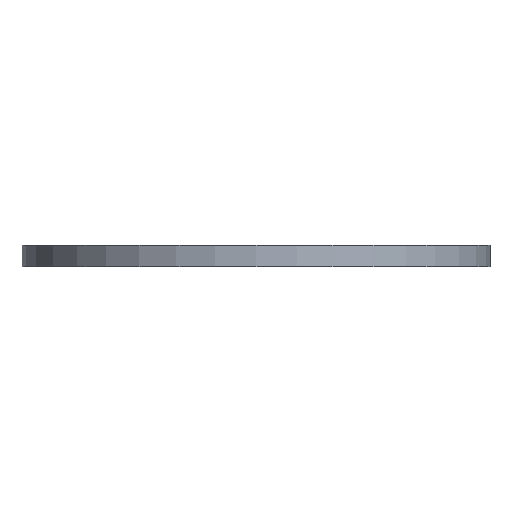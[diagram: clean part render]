
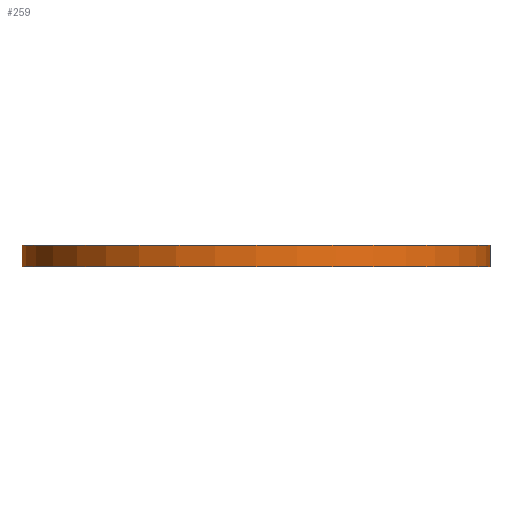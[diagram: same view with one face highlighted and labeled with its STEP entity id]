
A CAD part, front view. The second image highlights one B-rep face of the part: STEP entity #259.
In plain terms, the highlighted cylindrical face has radius 140 mm (diameter 280 mm), a partial arc.
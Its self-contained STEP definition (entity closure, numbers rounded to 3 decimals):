
#14 = DIRECTION ( 'NONE',  ( 0., 0., 1. ) ) ;
#30 = EDGE_CURVE ( 'NONE', #240, #718, #619, .T. ) ;
#32 = CARTESIAN_POINT ( 'NONE',  ( 140., 0., 13. ) ) ;
#64 = VECTOR ( 'NONE', #625, 1000. ) ;
#70 = DIRECTION ( 'NONE',  ( 0., 0., -1. ) ) ;
#81 = DIRECTION ( 'NONE',  ( 1., 0., 0. ) ) ;
#91 = CARTESIAN_POINT ( 'NONE',  ( 140., 0., 0. ) ) ;
#120 = DIRECTION ( 'NONE',  ( -1., 0., 0. ) ) ;
#164 = VERTEX_POINT ( 'NONE', #91 ) ;
#199 = CARTESIAN_POINT ( 'NONE',  ( 0., 0., 13. ) ) ;
#216 = EDGE_LOOP ( 'NONE', ( #685, #788, #676, #414 ) ) ;
#240 = VERTEX_POINT ( 'NONE', #630 ) ;
#247 = DIRECTION ( 'NONE',  ( 1., 0., 0. ) ) ;
#251 = EDGE_CURVE ( 'NONE', #776, #164, #284, .T. ) ;
#259 = ADVANCED_FACE ( 'NONE', ( #278 ), #565, .T. ) ;
#278 = FACE_OUTER_BOUND ( 'NONE', #216, .T. ) ;
#284 = CIRCLE ( 'NONE', #771, 140. ) ;
#364 = CARTESIAN_POINT ( 'NONE',  ( 0., 0., 13. ) ) ;
#367 = EDGE_CURVE ( 'NONE', #718, #164, #428, .T. ) ;
#373 = CARTESIAN_POINT ( 'NONE',  ( -140., 0., 13. ) ) ;
#414 = ORIENTED_EDGE ( 'NONE', *, *, #251, .T. ) ;
#428 = LINE ( 'NONE', #545, #692 ) ;
#429 = CARTESIAN_POINT ( 'NONE',  ( -140., 0., 0. ) ) ;
#474 = DIRECTION ( 'NONE',  ( 0., 0., -1. ) ) ;
#538 = DIRECTION ( 'NONE',  ( 0., 0., 1. ) ) ;
#545 = CARTESIAN_POINT ( 'NONE',  ( 140., 0., 13. ) ) ;
#565 = CYLINDRICAL_SURFACE ( 'NONE', #578, 140. ) ;
#566 = AXIS2_PLACEMENT_3D ( 'NONE', #364, #538, #247 ) ;
#578 = AXIS2_PLACEMENT_3D ( 'NONE', #199, #70, #120 ) ;
#591 = LINE ( 'NONE', #373, #64 ) ;
#619 = CIRCLE ( 'NONE', #566, 140. ) ;
#625 = DIRECTION ( 'NONE',  ( 0., 0., -1. ) ) ;
#630 = CARTESIAN_POINT ( 'NONE',  ( -140., 0., 13. ) ) ;
#645 = CARTESIAN_POINT ( 'NONE',  ( 0., 0., 0. ) ) ;
#676 = ORIENTED_EDGE ( 'NONE', *, *, #797, .T. ) ;
#685 = ORIENTED_EDGE ( 'NONE', *, *, #367, .F. ) ;
#692 = VECTOR ( 'NONE', #474, 1000. ) ;
#718 = VERTEX_POINT ( 'NONE', #32 ) ;
#771 = AXIS2_PLACEMENT_3D ( 'NONE', #645, #14, #81 ) ;
#776 = VERTEX_POINT ( 'NONE', #429 ) ;
#788 = ORIENTED_EDGE ( 'NONE', *, *, #30, .F. ) ;
#797 = EDGE_CURVE ( 'NONE', #240, #776, #591, .T. ) ;
